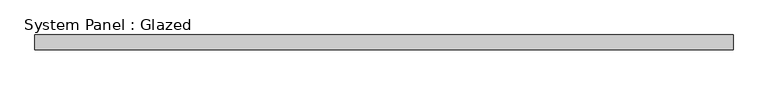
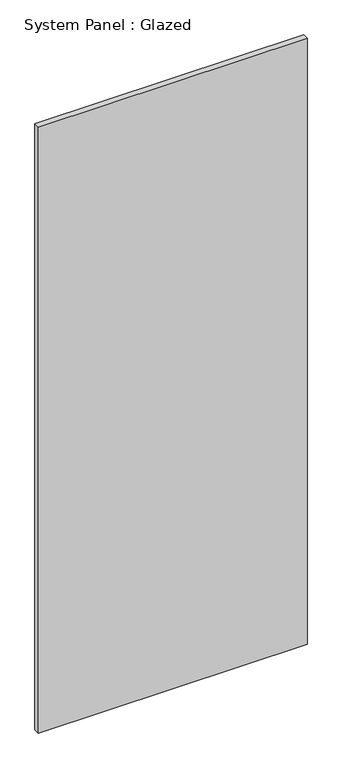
"""IFC4 building model written with IfcOpenShell, lengths in millimetres: plate geometry, System Panel : Glazed."""

from ifc_helpers import new_model, si_unit, origin, origin_with_axes, place, context, project, spatial, polyline, outline, extrude, source, transform, mapped, element, save


def system_panel_glazed_08074b61(model_context):
    return source(origin(), model_context, "Body", "SweptSolid", [
        extrude(outline(polyline([(587.4999997, 0.0), (-587.4999997, 0.0), (-587.4999997, 25.0), (587.4999997, 25.0), (587.4999997, 0.0)])), origin_with_axes(), (0.0, 0.0, 1.0), 2800.0),
    ])


if __name__ == "__main__":
    model = new_model("IFC4")
    model_context = context("Model", 3, world=origin())
    ifc_project = project(units=[si_unit("LENGTHUNIT", "METRE", prefix="MILLI")], contexts=[model_context])
    site = spatial("IfcSite", under=ifc_project)
    building = spatial("IfcBuilding", under=site)
    placement = place(None, origin())
    system_panel_glazed_shape = system_panel_glazed_08074b61(model_context)
    element("IfcPlate", 1, ObjectType="System Panel : Glazed", at=placement, inside=building, context=model_context, shape_type="MappedRepresentation", body=[
        mapped(system_panel_glazed_shape, transform((0.0, 0.0, 0.0), x_axis=(1.0, 0.0, 0.0), y_axis=(0.0, 1.0, 0.0), z_axis=(0.0, 0.0, 1.0))),
    ])
    save(model, "model.ifc")
